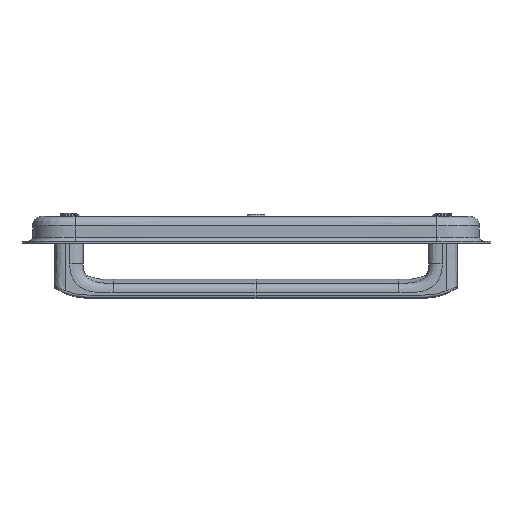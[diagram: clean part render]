
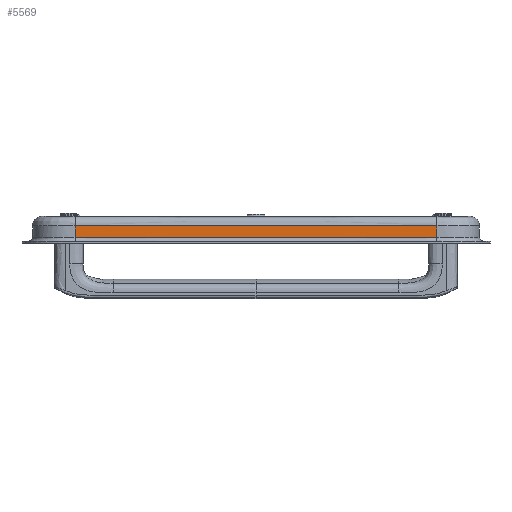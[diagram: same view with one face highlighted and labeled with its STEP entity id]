
A CAD part, left-side view. The second image highlights one B-rep face of the part: STEP entity #5569.
In plain terms, the highlighted free-form (B-spline) face has degree [2, 1] with [3, 2] control points.
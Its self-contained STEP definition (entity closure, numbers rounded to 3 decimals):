
#289=B_SPLINE_SURFACE_WITH_KNOTS('',2,1,((#18420,#18421),(#18422,#18423),
(#18424,#18425)),.UNSPECIFIED.,.F.,.F.,.F.,(3,3),(2,2),(-1.,0.),(0.,2.4),
 .UNSPECIFIED.);
#618=B_SPLINE_CURVE_WITH_KNOTS('',3,(#17494,#17495,#17496,#17497),
 .UNSPECIFIED.,.F.,.F.,(4,4),(0.,18.943),.UNSPECIFIED.);
#635=B_SPLINE_CURVE_WITH_KNOTS('',2,(#18428,#18429,#18430),
 .UNSPECIFIED.,.F.,.F.,(3,3),(0.,18.943),.UNSPECIFIED.);
#1068=FACE_OUTER_BOUND('',#1408,.T.);
#1408=EDGE_LOOP('',(#5148,#5149,#5150,#5151));
#1851=LINE('',#18431,#2273);
#1852=LINE('',#18432,#2274);
#2273=VECTOR('',#6857,10.);
#2274=VECTOR('',#6858,10.);
#2835=VERTEX_POINT('',#17336);
#2836=VERTEX_POINT('',#17493);
#2841=VERTEX_POINT('',#18426);
#2842=VERTEX_POINT('',#18427);
#3592=EDGE_CURVE('',#2836,#2835,#618,.T.);
#3619=EDGE_CURVE('',#2841,#2842,#635,.T.);
#3620=EDGE_CURVE('',#2842,#2836,#1851,.T.);
#3621=EDGE_CURVE('',#2835,#2841,#1852,.T.);
#5148=ORIENTED_EDGE('',*,*,#3619,.T.);
#5149=ORIENTED_EDGE('',*,*,#3620,.T.);
#5150=ORIENTED_EDGE('',*,*,#3592,.T.);
#5151=ORIENTED_EDGE('',*,*,#3621,.T.);
#5569=ADVANCED_FACE('',(#1068),#289,.T.);
#6857=DIRECTION('',(0.,0.,1.));
#6858=DIRECTION('',(0.,0.,-1.));
#17336=CARTESIAN_POINT('',(-72.887,95.763,-23.967));
#17493=CARTESIAN_POINT('',(-72.887,-93.668,-23.967));
#17494=CARTESIAN_POINT('Ctrl Pts',(-72.887,-93.668,
-23.967));
#17495=CARTESIAN_POINT('Ctrl Pts',(-72.887,-30.524,
-23.967));
#17496=CARTESIAN_POINT('Ctrl Pts',(-72.887,32.619,-23.967));
#17497=CARTESIAN_POINT('Ctrl Pts',(-72.887,95.763,-23.967));
#18420=CARTESIAN_POINT('Ctrl Pts',(-72.887,-93.668,
-21.967));
#18421=CARTESIAN_POINT('Ctrl Pts',(-72.887,-93.668,
-45.967));
#18422=CARTESIAN_POINT('Ctrl Pts',(-72.887,1.047,-21.967));
#18423=CARTESIAN_POINT('Ctrl Pts',(-72.887,1.047,-45.967));
#18424=CARTESIAN_POINT('Ctrl Pts',(-72.887,95.763,-21.967));
#18425=CARTESIAN_POINT('Ctrl Pts',(-72.887,95.763,-45.967));
#18426=CARTESIAN_POINT('',(-72.887,95.763,-29.967));
#18427=CARTESIAN_POINT('',(-72.887,-93.668,-29.967));
#18428=CARTESIAN_POINT('Ctrl Pts',(-72.887,95.763,-29.967));
#18429=CARTESIAN_POINT('Ctrl Pts',(-72.887,1.047,-29.967));
#18430=CARTESIAN_POINT('Ctrl Pts',(-72.887,-93.668,
-29.967));
#18431=CARTESIAN_POINT('',(-72.887,-93.668,-36.967));
#18432=CARTESIAN_POINT('',(-72.887,95.763,-23.967));
